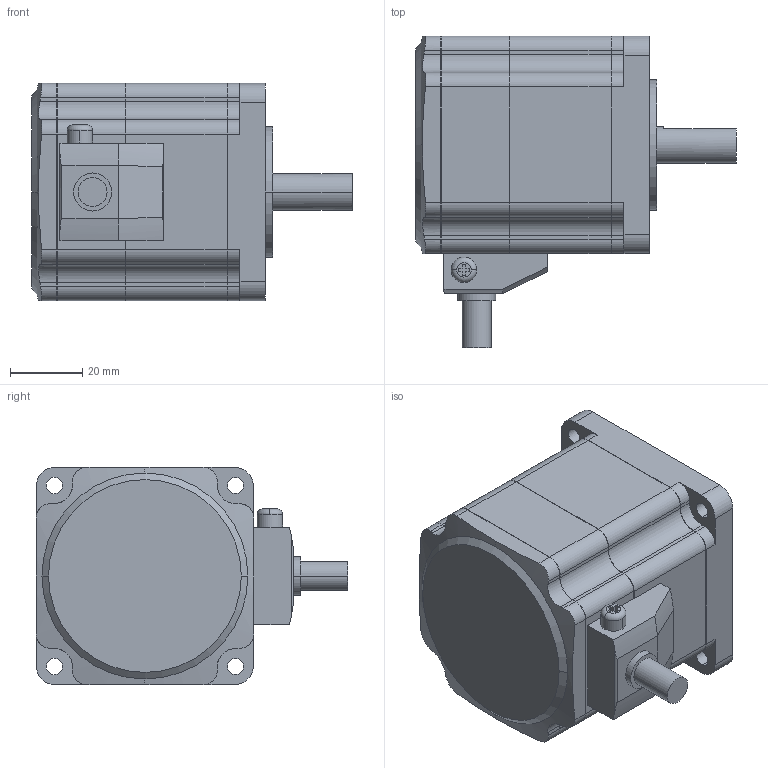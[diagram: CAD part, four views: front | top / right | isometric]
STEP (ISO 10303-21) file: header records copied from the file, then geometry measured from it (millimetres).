
FILE_DESCRIPTION( ( '' ), '1' );
FILE_NAME( 'c:/cad_url_generator/oriental/selction_from_product_tree/stepping_motors/alpha_step/ar_series/built_in_pos_fun_type/bi_standard/AR66ACD-1.STEP', '2012-06-14T16:37:51', ( '' ), ( '' ), ' ', ' ', ' ' );
FILE_SCHEMA( ( 'CONFIG_CONTROL_DESIGN' ) );
Length unit declared in the file: millimetre
Products named in the file (1): 1
Bounding box: 88.5 x 86 x 60 mm (x, y, z)
Volume: 218736.7 mm3; surface area: 23611.2 mm2
Topology: 1 solids, 1 shells, 241 faces, 682 edges, 453 vertices
Faces by surface type: plane 123, cylinder 110, cone 4, sphere 2, torus 2
Entity records: 8183 total; most frequent: CARTESIAN_POINT 1665, DIRECTION 1383, ORIENTED_EDGE 1364, EDGE_CURVE 682, AXIS2_PLACEMENT_3D 479, VERTEX_POINT 453, LINE 425, VECTOR 425
